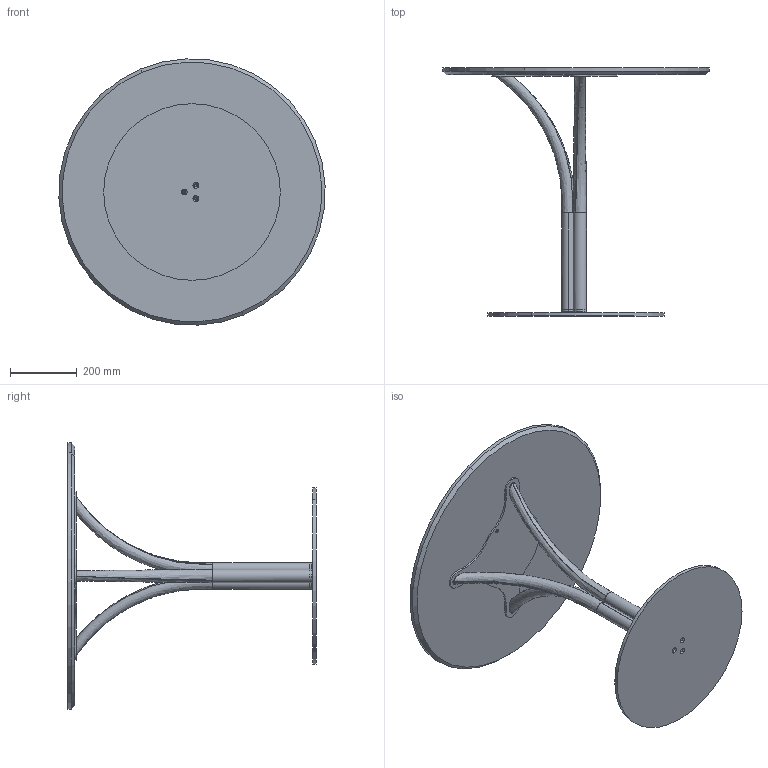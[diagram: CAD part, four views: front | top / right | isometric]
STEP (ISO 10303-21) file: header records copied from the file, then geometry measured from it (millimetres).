
FILE_DESCRIPTION (( 'STEP AP203' ), '1' );
FILE_NAME ('DB20M.STEP', '2024-08-08T08:14:43', ( '' ), ( '' ), 'SwSTEP 2.0', 'SolidWorks 2022', '' );
FILE_SCHEMA (( 'CONFIG_CONTROL_DESIGN' ));
Length unit declared in the file: millimetre
Products named in the file (6): DOD000000_02-00-Gamba curvata per DODO''_Default<A macchina>; M0X-00- D. piani marmo_D.800; CBS000000BAS-00-BISTRO PIASTRA INFERIORE_D.530; DB20M; DOD000000_01-01-poggiapiano; DOD000000-01-DODO BASE 
Assembly tree (7 placements, depth 3):
  DB20M
    CBS000000BAS-00-BISTRO PIASTRA INFERIORE_D.530
    DOD000000-01-DODO BASE 
      DOD000000_02-00-Gamba curvata per DODO''_Default<A macchina>  x3
      DOD000000_01-01-poggiapiano
    M0X-00- D. piani marmo_D.800
Bounding box: 799.18 x 745 x 799.18 mm (x, y, z)
Volume: 13021530.4 mm3; surface area: 2177141.9 mm2
Topology: 9 solids, 9 shells, 113 faces, 269 edges, 170 vertices
Faces by surface type: cylinder 61, plane 24, cone 16, bspline 12
Entity records: 6327 total; most frequent: CARTESIAN_POINT 3703, DIRECTION 443, ORIENTED_EDGE 378, EDGE_CURVE 189, AXIS2_PLACEMENT_3D 182, VERTEX_POINT 122, EDGE_LOOP 101, CIRCLE 94
